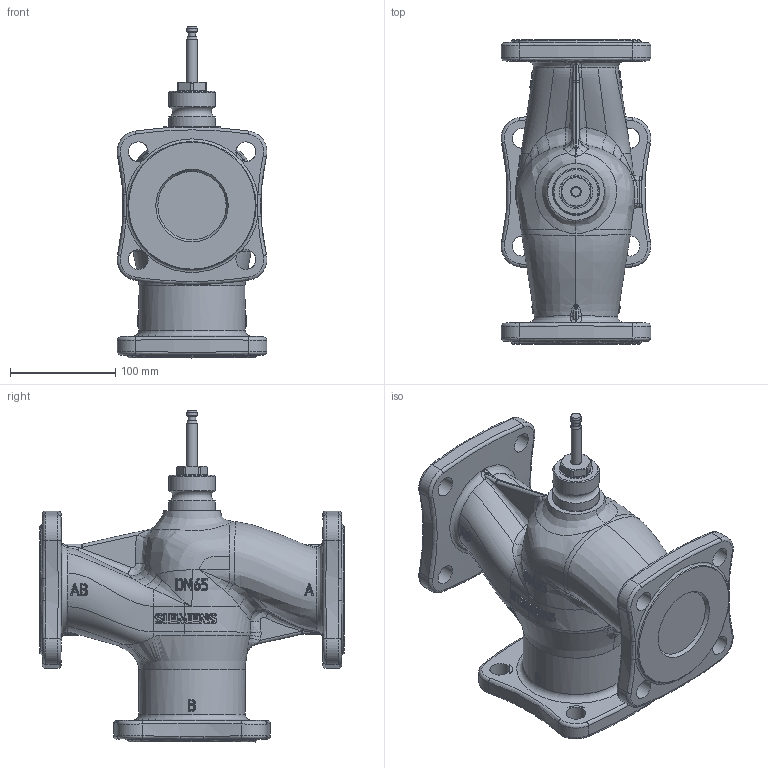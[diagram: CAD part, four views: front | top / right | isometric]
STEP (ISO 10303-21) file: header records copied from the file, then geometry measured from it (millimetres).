
FILE_DESCRIPTION(/* description */ (''),/* implementation_level */ '2;1');
FILE_NAME(/* name */ 'DN65.stp',/* time_stamp */ '2016-04-29T09:51:18+08:00',/* author */ (''),/* organization */ (''),/* preprocessor_version */ 'ST-DEVELOPER v15',/* originating_system */ 'SIEMENS PLM Software NX 8.5',/* authorisation */ '');
FILE_SCHEMA (('AP203_CONFIGURATION_CONTROLLED_3D_DESIGN_OF_MECHANICAL_PARTS_AND_ASSEMBLIES_MIM_LF { 1 0 10303 403 2 1 2}'));
Products named in the file (1): z0031BA87013dem7
Bounding box: 142.48 x 290 x 316 mm (x, y, z)
Volume: 3709899.1 mm3; surface area: 244728.1 mm2
Topology: 1 solids, 1 shells, 1396 faces, 3239 edges, 1789 vertices
Faces by surface type: bspline 878, cylinder 230, plane 123, sphere 104, cone 39, torus 16, extrusion 6
Full cylindrical faces by diameter (mm): 2 x2, 7 x1, 10 x2, 19 x12, 28 x1, 32 x1, 44 x2, 101 x1
Entity records: 149902 total; most frequent: CARTESIAN_POINT 125274, ORIENTED_EDGE 6158, DIRECTION 3578, EDGE_CURVE 3079, VERTEX_POINT 1760, AXIS2_PLACEMENT_3D 1537, EDGE_LOOP 1491, ADVANCED_FACE 1395
